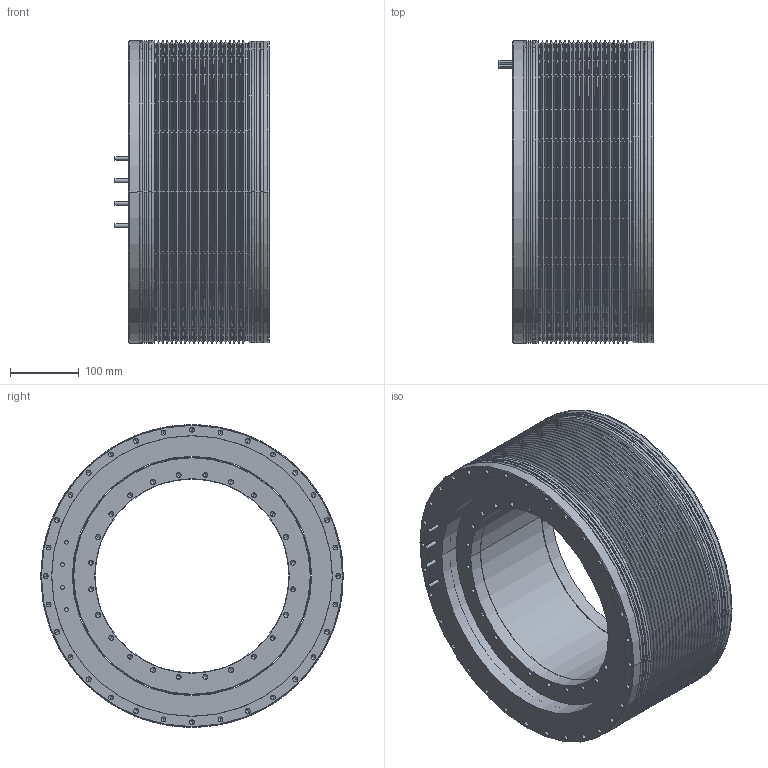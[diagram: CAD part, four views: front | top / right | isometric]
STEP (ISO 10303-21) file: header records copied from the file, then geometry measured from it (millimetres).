
FILE_DESCRIPTION((''),'2;1');
FILE_NAME('TK440-150','2017-10-30T',('stefanos'),(''),'CREO PARAMETRIC BY PTC INC, 2015480','CREO PARAMETRIC BY PTC INC, 2015480','');
FILE_SCHEMA(('CONFIG_CONTROL_DESIGN'));
Length unit declared in the file: millimetre
Products named in the file (1): TK440-150
Bounding box: 224 x 440 x 440 mm (x, y, z)
Volume: 16155507.9 mm3; surface area: 2114129.8 mm2
Topology: 9 solids, 9 shells, 647 faces, 1454 edges, 764 vertices
Faces by surface type: cylinder 314, cone 264, plane 37, torus 16, revolution 16
Entity records: 18214 total; most frequent: CARTESIAN_POINT 4241, DIRECTION 3224, ORIENTED_EDGE 2588, AXIS2_PLACEMENT_3D 1315, EDGE_CURVE 1294, VERTEX_POINT 764, EDGE_LOOP 764, CIRCLE 684
